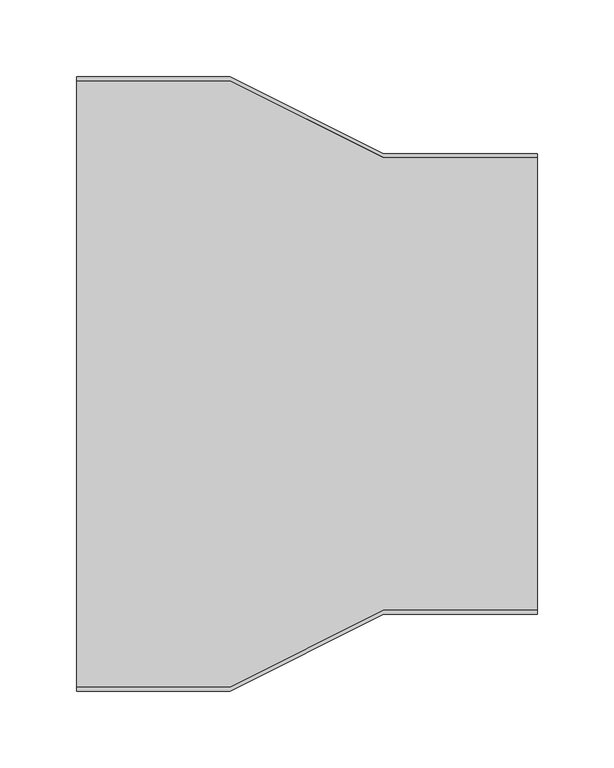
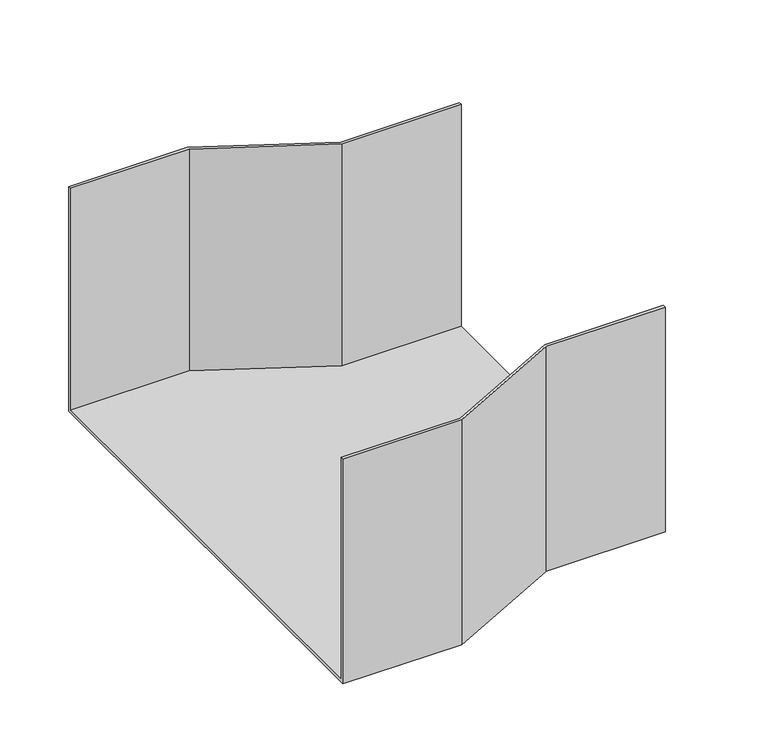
"""IFC4 building model written with IfcOpenShell, lengths in millimetres: cable carrier fitting geometry, BAKS_Reduction-symmetrical_RKZ : RKZCH200."""

from ifc_helpers import new_model, si_unit, origin, place, context, project, spatial, faceted_brep, source, transform, mapped, element, save


def cable_carrier_fitting_d9c8c3b4(model_context):
    return source(origin(), model_context, "Body", "Brep", [
        faceted_brep([(0.0, -200.0, -100.0), (0.0, -200.0, 100.0), (0.0, -197.46, 100.0), (0.0, -197.46, -97.46), (0.0, 197.46, -97.46), (0.0, 197.46, 100.0), (0.0, 200.0, 100.0), (0.0, 200.0, -100.0), (300.0, -150.0, -100.0), (300.0, 150.0, -100.0), (300.0, 150.0, 100.0), (300.0, 147.46, 100.0), (300.0, 147.46, -97.46), (300.0, -147.46, -97.46), (300.0, -147.46, 100.0), (300.0, -150.0, 100.0), (100.0, -200.0, -100.0), (100.0, -200.0, 100.0), (200.0, -150.0, 100.0), (200.0, -147.46, 100.0), (100.0, -197.46, 100.0), (100.0, -197.46, -97.46), (200.0, -147.46, -97.46), (200.0, 147.46, -97.46), (100.0, 197.46, -97.46), (100.0, 197.46, 100.0), (200.0, 147.46, 100.0), (200.0, 150.0, 100.0), (100.0, 200.0, 100.0), (100.0, 200.0, -100.0), (200.0, 150.0, -100.0), (200.0, -150.0, -100.0)], [[[0, 1, 2, 3, 4, 5, 6, 7]], [[8, 9, 10, 11, 12, 13, 14, 15]], [[1, 0, 16, 17]], [[2, 1, 17, 18, 15, 14, 19, 20]], [[3, 2, 20, 21]], [[4, 3, 21, 22, 13, 12, 23, 24]], [[5, 4, 24, 25]], [[6, 5, 25, 26, 11, 10, 27, 28]], [[7, 6, 28, 29]], [[0, 7, 29, 30, 9, 8, 31, 16]], [[8, 15, 18, 31]], [[14, 13, 22, 19]], [[12, 11, 26, 23]], [[10, 9, 30, 27]], [[30, 29, 28, 27]], [[26, 25, 24, 23]], [[22, 21, 20, 19]], [[16, 31, 18, 17]]]),
    ])


if __name__ == "__main__":
    model = new_model("IFC4")
    model_context = context("Model", 3, world=origin())
    ifc_project = project(units=[si_unit("LENGTHUNIT", "METRE", prefix="MILLI")], contexts=[model_context])
    site = spatial("IfcSite", under=ifc_project)
    building = spatial("IfcBuilding", under=site)
    placement = place(None, origin())
    cable_carrier_fitting_shape = cable_carrier_fitting_d9c8c3b4(model_context)
    element("IfcCableCarrierFitting", 1, ObjectType="BAKS_Reduction-symmetrical_RKZ : RKZCH200", at=placement, inside=building, context=model_context, shape_type="MappedRepresentation", body=[
        mapped(cable_carrier_fitting_shape, transform((0.0, 0.0, 0.0), x_axis=(1.0, 0.0, 0.0), y_axis=(0.0, 1.0, 0.0), z_axis=(0.0, 0.0, 1.0))),
    ])
    save(model, "model.ifc")
